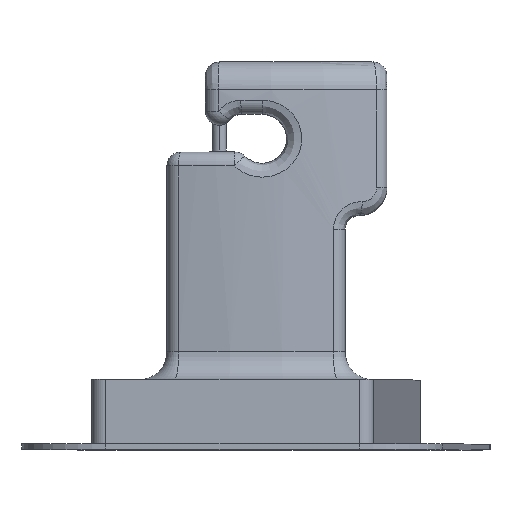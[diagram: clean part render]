
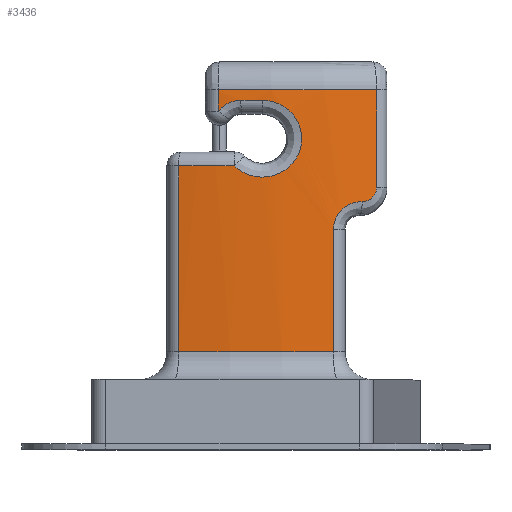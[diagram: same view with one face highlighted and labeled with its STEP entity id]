
A CAD part, top view. The second image highlights one B-rep face of the part: STEP entity #3436.
In plain terms, the highlighted cylindrical face has radius 34.167 mm (diameter 68.334 mm), a partial arc.
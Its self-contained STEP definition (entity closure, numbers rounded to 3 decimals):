
#34=CARTESIAN_POINT('',(-2.704,3.5,3.393));
#41=CARTESIAN_POINT('',(8.628,3.5,2.393));
#57=CARTESIAN_POINT('',(0.,3.5,-30.667));
#58=DIRECTION('',(0.,-1.,0.));
#59=DIRECTION('',(0.253,0.,0.968));
#60=AXIS2_PLACEMENT_3D('',#57,#58,#59);
#509=DIRECTION('',(0.,-1.,0.));
#510=VECTOR('',#509,1.524);
#511=CARTESIAN_POINT('',(-2.704,3.5,3.393));
#512=LINE('',#511,#510);
#513=DIRECTION('',(0.,1.,0.));
#514=VECTOR('',#513,7.);
#515=CARTESIAN_POINT('',(8.628,-3.5,2.393));
#516=LINE('',#515,#514);
#517=CARTESIAN_POINT('',(7.597,-4.5,2.645));
#518=CARTESIAN_POINT('',(7.643,-4.5,2.634));
#519=CARTESIAN_POINT('',(7.732,-4.494,2.614));
#520=CARTESIAN_POINT('',(7.864,-4.469,2.583));
#521=CARTESIAN_POINT('',(7.992,-4.427,2.552));
#522=CARTESIAN_POINT('',(8.112,-4.369,2.523));
#523=CARTESIAN_POINT('',(8.224,-4.297,2.495));
#524=CARTESIAN_POINT('',(8.325,-4.211,2.47));
#525=CARTESIAN_POINT('',(8.414,-4.114,2.448));
#526=CARTESIAN_POINT('',(8.489,-4.006,2.429));
#527=CARTESIAN_POINT('',(8.549,-3.891,2.413));
#528=CARTESIAN_POINT('',(8.593,-3.768,2.402));
#529=CARTESIAN_POINT('',(8.621,-3.636,2.394));
#530=CARTESIAN_POINT('',(8.628,-3.546,2.393));
#531=CARTESIAN_POINT('',(8.628,-3.5,2.393));
#533=CARTESIAN_POINT('',(0.,-15.25,-30.667));
#534=DIRECTION('',(0.,-1.,0.));
#535=DIRECTION('',(0.162,0.,0.987));
#536=AXIS2_PLACEMENT_3D('',#533,#534,#535);
#538=DIRECTION('',(0.,-1.,0.));
#539=VECTOR('',#538,13.3);
#540=CARTESIAN_POINT('',(-5.537,-1.95,3.048));
#541=LINE('',#540,#539);
#542=CARTESIAN_POINT('',(0.,-1.95,-30.667));
#543=DIRECTION('',(0.,-1.,0.));
#544=DIRECTION('',(-0.045,0.,0.999));
#545=AXIS2_PLACEMENT_3D('',#542,#543,#544);
#547=CARTESIAN_POINT('',(0.443,2.75,3.497));
#548=CARTESIAN_POINT('',(0.564,2.75,3.496));
#549=CARTESIAN_POINT('',(0.806,2.735,3.491));
#550=CARTESIAN_POINT('',(1.166,2.667,3.481));
#551=CARTESIAN_POINT('',(1.511,2.555,3.467));
#552=CARTESIAN_POINT('',(1.836,2.403,3.451));
#553=CARTESIAN_POINT('',(2.139,2.212,3.433));
#554=CARTESIAN_POINT('',(2.412,1.987,3.415));
#555=CARTESIAN_POINT('',(2.653,1.731,3.397));
#556=CARTESIAN_POINT('',(2.859,1.45,3.38));
#557=CARTESIAN_POINT('',(3.026,1.147,3.366));
#558=CARTESIAN_POINT('',(3.152,0.828,3.354));
#559=CARTESIAN_POINT('',(3.237,0.497,3.346));
#560=CARTESIAN_POINT('',(3.278,0.159,3.342));
#561=CARTESIAN_POINT('',(3.277,-0.182,3.342));
#562=CARTESIAN_POINT('',(3.232,-0.52,3.347));
#563=CARTESIAN_POINT('',(3.144,-0.852,3.355));
#564=CARTESIAN_POINT('',(3.014,-1.172,3.367));
#565=CARTESIAN_POINT('',(2.843,-1.475,3.382));
#566=CARTESIAN_POINT('',(2.633,-1.756,3.399));
#567=CARTESIAN_POINT('',(2.387,-2.011,3.417));
#568=CARTESIAN_POINT('',(2.108,-2.234,3.435));
#569=CARTESIAN_POINT('',(1.8,-2.423,3.453));
#570=CARTESIAN_POINT('',(1.469,-2.571,3.469));
#571=CARTESIAN_POINT('',(1.122,-2.678,3.482));
#572=CARTESIAN_POINT('',(0.763,-2.74,3.492));
#573=CARTESIAN_POINT('',(0.4,-2.757,3.498));
#574=CARTESIAN_POINT('',(0.038,-2.729,3.501));
#575=CARTESIAN_POINT('',(-0.318,-2.657,
3.499));
#576=CARTESIAN_POINT('',(-0.662,-2.54,
3.494));
#577=CARTESIAN_POINT('',(-0.987,-2.383,
3.486));
#578=CARTESIAN_POINT('',(-1.289,-2.186,3.476));
#579=CARTESIAN_POINT('',(-1.469,-2.032,3.469));
#580=CARTESIAN_POINT('',(-1.555,-1.95,3.465));
#582=CARTESIAN_POINT('',(0.,2.75,-30.667));
#583=DIRECTION('',(0.,1.,0.));
#584=DIRECTION('',(-0.032,0.,1.));
#585=AXIS2_PLACEMENT_3D('',#582,#583,#584);
#587=CARTESIAN_POINT('',(-2.704,1.976,3.393));
#588=CARTESIAN_POINT('',(-2.648,2.046,3.397));
#589=CARTESIAN_POINT('',(-2.529,2.176,3.406));
#590=CARTESIAN_POINT('',(-2.335,2.34,3.42));
#591=CARTESIAN_POINT('',(-2.118,2.482,3.435));
#592=CARTESIAN_POINT('',(-1.886,2.595,3.448));
#593=CARTESIAN_POINT('',(-1.64,2.68,3.461));
#594=CARTESIAN_POINT('',(-1.366,2.737,3.473));
#595=CARTESIAN_POINT('',(-1.175,2.75,3.48));
#596=CARTESIAN_POINT('',(-1.077,2.75,3.483));
#855=DIRECTION('',(0.,1.,0.));
#856=VECTOR('',#855,8.75);
#857=CARTESIAN_POINT('',(5.537,-15.25,3.048));
#858=LINE('',#857,#856);
#859=CARTESIAN_POINT('',(5.537,-6.5,3.048));
#860=CARTESIAN_POINT('',(5.537,-6.416,3.048));
#861=CARTESIAN_POINT('',(5.548,-6.249,3.047));
#862=CARTESIAN_POINT('',(5.597,-5.997,3.038));
#863=CARTESIAN_POINT('',(5.681,-5.751,3.025));
#864=CARTESIAN_POINT('',(5.796,-5.518,3.005));
#865=CARTESIAN_POINT('',(5.942,-5.3,2.98));
#866=CARTESIAN_POINT('',(6.116,-5.102,2.948));
#867=CARTESIAN_POINT('',(6.316,-4.926,2.911));
#868=CARTESIAN_POINT('',(6.541,-4.776,2.868));
#869=CARTESIAN_POINT('',(6.786,-4.655,2.82));
#870=CARTESIAN_POINT('',(7.048,-4.566,2.765));
#871=CARTESIAN_POINT('',(7.321,-4.512,2.707));
#872=CARTESIAN_POINT('',(7.505,-4.5,2.666));
#873=CARTESIAN_POINT('',(7.597,-4.5,2.645));
#2079=CARTESIAN_POINT('',(5.537,-15.25,3.048));
#2080=VERTEX_POINT('',#2079);
#2083=CARTESIAN_POINT('',(-5.537,-15.25,3.048));
#2084=VERTEX_POINT('',#2083);
#2225=VERTEX_POINT('',#41);
#2227=CARTESIAN_POINT('',(8.628,-3.5,2.393));
#2228=VERTEX_POINT('',#2227);
#2242=CARTESIAN_POINT('',(5.537,-6.5,3.048));
#2244=VERTEX_POINT('',#2242);
#2245=CARTESIAN_POINT('',(7.597,-4.5,2.645));
#2246=VERTEX_POINT('',#2245);
#2283=VERTEX_POINT('',#34);
#2285=CARTESIAN_POINT('',(-2.704,1.976,3.393));
#2286=VERTEX_POINT('',#2285);
#2291=VERTEX_POINT('',#596);
#2293=CARTESIAN_POINT('',(0.443,2.75,3.497));
#2294=VERTEX_POINT('',#2293);
#2297=VERTEX_POINT('',#580);
#2301=CARTESIAN_POINT('',(-5.537,-1.95,3.048));
#2302=VERTEX_POINT('',#2301);
#3408=CARTESIAN_POINT('',(0.,-22.25,-30.667));
#3409=DIRECTION('',(0.,1.,0.));
#3410=DIRECTION('',(0.,0.,-1.));
#3411=AXIS2_PLACEMENT_3D('',#3408,#3409,#3410);
#3412=CYLINDRICAL_SURFACE('',#3411,34.167);
#3414=ORIENTED_EDGE('',*,*,#3413,.F.);
#3415=ORIENTED_EDGE('',*,*,#2646,.F.);
#3417=ORIENTED_EDGE('',*,*,#3416,.F.);
#3419=ORIENTED_EDGE('',*,*,#3418,.F.);
#3421=ORIENTED_EDGE('',*,*,#3420,.F.);
#3423=ORIENTED_EDGE('',*,*,#3422,.F.);
#3425=ORIENTED_EDGE('',*,*,#3424,.T.);
#3426=ORIENTED_EDGE('',*,*,#3374,.F.);
#3427=ORIENTED_EDGE('',*,*,#3399,.F.);
#3429=ORIENTED_EDGE('',*,*,#3428,.F.);
#3431=ORIENTED_EDGE('',*,*,#3430,.F.);
#3433=ORIENTED_EDGE('',*,*,#3432,.F.);
#3434=EDGE_LOOP('',(#3414,#3415,#3417,#3419,#3421,#3423,#3425,#3426,#3427,#3429,
#3431,#3433));
#3435=FACE_OUTER_BOUND('',#3434,.F.);
#3436=ADVANCED_FACE('',(#3435),#3412,.T.);
#61=CIRCLE('',#60,34.167);
#532=B_SPLINE_CURVE_WITH_KNOTS('',3,(#517,#518,#519,#520,#521,#522,#523,#524,
#525,#526,#527,#528,#529,#530,#531),.UNSPECIFIED.,.F.,.F.,(4,1,1,1,1,1,1,1,1,1,
1,1,4),(0.,0.083,0.167,0.25,0.333,
0.417,0.5,0.583,0.667,0.75,
0.833,0.917,1.),.UNSPECIFIED.);
#537=CIRCLE('',#536,34.167);
#546=CIRCLE('',#545,34.167);
#581=B_SPLINE_CURVE_WITH_KNOTS('',3,(#547,#548,#549,#550,#551,#552,#553,#554,
#555,#556,#557,#558,#559,#560,#561,#562,#563,#564,#565,#566,#567,#568,#569,#570,
#571,#572,#573,#574,#575,#576,#577,#578,#579,#580),.UNSPECIFIED.,.F.,.F.,(4,1,1,
1,1,1,1,1,1,1,1,1,1,1,1,1,1,1,1,1,1,1,1,1,1,1,1,1,1,1,1,4),(0.,
0.032,0.065,0.097,0.129,
0.161,0.194,0.226,0.258,
0.29,0.323,0.355,0.387,
0.419,0.452,0.484,0.516,
0.548,0.581,0.613,0.645,
0.677,0.71,0.742,0.774,
0.806,0.839,0.871,0.903,
0.935,0.968,1.),.UNSPECIFIED.);
#586=CIRCLE('',#585,34.167);
#597=B_SPLINE_CURVE_WITH_KNOTS('',3,(#587,#588,#589,#590,#591,#592,#593,#594,
#595,#596),.UNSPECIFIED.,.F.,.F.,(4,1,1,1,1,1,1,4),(0.,0.143,
0.286,0.429,0.571,0.714,
0.857,1.),.UNSPECIFIED.);
#874=B_SPLINE_CURVE_WITH_KNOTS('',3,(#859,#860,#861,#862,#863,#864,#865,#866,
#867,#868,#869,#870,#871,#872,#873),.UNSPECIFIED.,.F.,.F.,(4,1,1,1,1,1,1,1,1,1,
1,1,4),(0.,0.083,0.167,0.25,0.333,
0.417,0.5,0.583,0.667,0.75,
0.833,0.917,1.),.UNSPECIFIED.);
#2646=EDGE_CURVE('',#2225,#2283,#61,.T.);
#3374=EDGE_CURVE('',#2302,#2084,#541,.T.);
#3399=EDGE_CURVE('',#2297,#2302,#546,.T.);
#3413=EDGE_CURVE('',#2283,#2286,#512,.T.);
#3416=EDGE_CURVE('',#2228,#2225,#516,.T.);
#3418=EDGE_CURVE('',#2246,#2228,#532,.T.);
#3420=EDGE_CURVE('',#2244,#2246,#874,.T.);
#3422=EDGE_CURVE('',#2080,#2244,#858,.T.);
#3424=EDGE_CURVE('',#2080,#2084,#537,.T.);
#3428=EDGE_CURVE('',#2294,#2297,#581,.T.);
#3430=EDGE_CURVE('',#2291,#2294,#586,.T.);
#3432=EDGE_CURVE('',#2286,#2291,#597,.T.);
